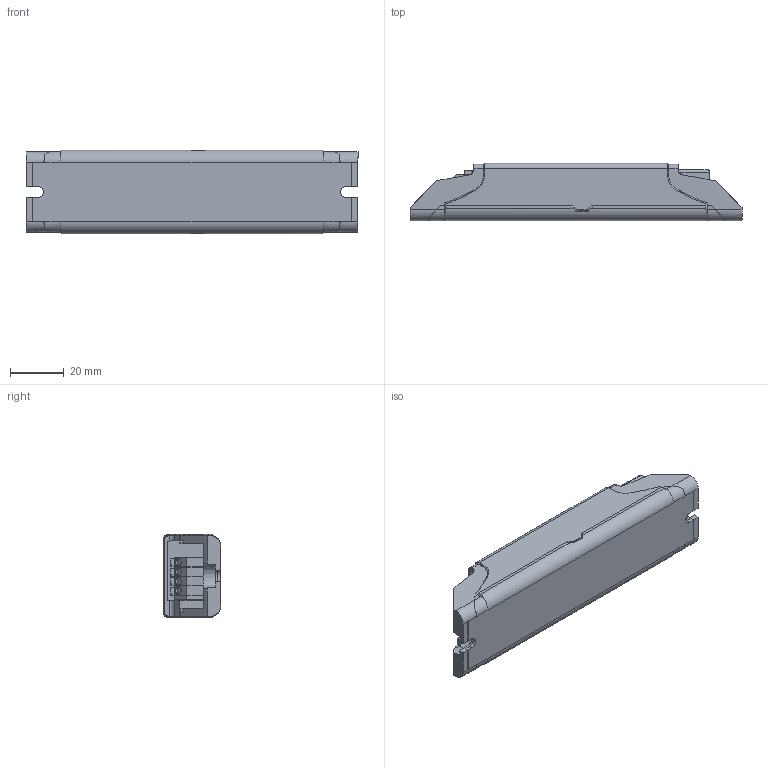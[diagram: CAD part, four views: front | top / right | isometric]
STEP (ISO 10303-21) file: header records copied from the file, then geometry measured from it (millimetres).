
FILE_DESCRIPTION (( 'STEP AP214' ), '1' );
FILE_NAME ('4183329swm000.step', '2020-01-14T09:40:02', ( 'OSRAM' ), ( 'OSRAM' ), 'SwSTEP 2.0', 'SolidWorks 2017', '' );
FILE_SCHEMA (( 'AUTOMOTIVE_DESIGN' ));
Length unit declared in the file: millimetre
Products named in the file (1): 4183329swm000
Bounding box: 123.7 x 21.4 x 31.22 mm (x, y, z)
Volume: 64115.8 mm3; surface area: 16034.4 mm2
Topology: 1 solids, 1 shells, 661 faces, 1819 edges, 1150 vertices
Faces by surface type: plane 524, cylinder 66, cone 46, bspline 21, torus 4
Entity records: 28177 total; most frequent: CARTESIAN_POINT 4809, ORIENTED_EDGE 3638, DIRECTION 3057, EDGE_CURVE 1819, LINE 1447, VECTOR 1447, VERTEX_POINT 1150, AXIS2_PLACEMENT_3D 805
